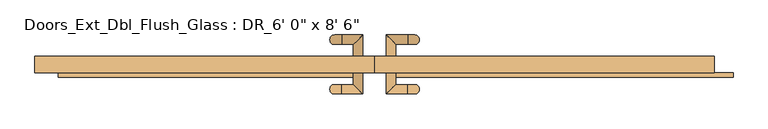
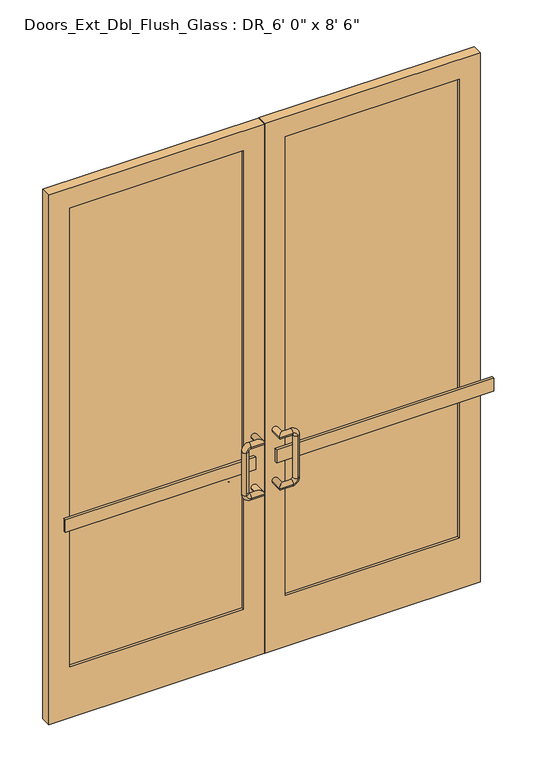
"""IFC4 building model written with IfcOpenShell, lengths in millimetres: door geometry."""

from ifc_helpers import new_model, si_unit, point, frame, origin, place, context, project, spatial, polyline, circle_curve, ellipse_curve, trimmed, outline, extrude, source, transform, mapped, element, save
from ifc_brep_helpers import plane_surface, cylinder_surface, revolved_surface, advanced_brep


def door_58879bf9(model_context):
    return source(origin(), model_context, "Body", "SolidModel", [
        advanced_brep(
        [(-31.75, 57.15, 762.0), (-57.15, 57.15, 762.0), (-31.75, 114.3, 762.0), (-57.15, 88.9, 762.0), (-88.9, 114.3, 762.0), (-88.9, 88.9, 762.0), (-107.95, 88.9, 781.05), (-107.95, 114.3, 781.05), (-107.95, 114.3, 971.55), (-107.95, 88.9, 971.55), (-88.9, 88.9, 990.6), (-88.9, 114.3, 990.6), (-31.75, 114.3, 990.6), (-57.15, 88.9, 990.6), (-31.75, 57.15, 990.6), (-57.15, 57.15, 990.6)],
        [
            (0, 1, circle_curve(frame((-44.45, 57.15, 762.0), z_axis=(0.0, -1.0, 0.0), x_axis=(-1.0, 0.0, 0.0)), 12.7)),
            (1, 0, circle_curve(frame((-44.45, 57.15, 762.0), z_axis=(0.0, -1.0, 0.0), x_axis=(-1.0, 0.0, 0.0)), 12.7)),
            (0, 2),
            (2, 3, ellipse_curve(frame((-44.45, 101.6, 762.0), z_axis=(0.7071067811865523, -0.7071067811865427, 0.0), x_axis=(-0.7071067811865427, -0.7071067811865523, 0.0)), 17.9605122, 12.7)),
            (3, 1),
            (3, 2, ellipse_curve(frame((-44.45, 101.6, 762.0), z_axis=(0.7071067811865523, -0.7071067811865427, 0.0), x_axis=(-0.7071067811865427, -0.7071067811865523, 0.0)), 17.9605122, 12.7)),
            (2, 4),
            (4, 5, circle_curve(frame((-88.9, 101.6, 762.0), z_axis=(1.0, 0.0, 0.0), x_axis=(0.0, -1.0, 0.0)), 12.7)),
            (5, 3),
            (5, 4, circle_curve(frame((-88.9, 101.6, 762.0), z_axis=(1.0, 0.0, 0.0), x_axis=(0.0, -1.0, 0.0)), 12.7)),
            (6, 5, circle_curve(frame((-88.9, 88.9, 781.05), z_axis=(0.0, -1.0, 0.0), x_axis=(0.0, 0.0, -1.0)), 19.05)),
            (4, 7, circle_curve(frame((-88.9, 114.3, 781.05), z_axis=(0.0, 1.0, 0.0), x_axis=(0.0, 0.0, -1.0)), 19.05)),
            (7, 6, circle_curve(frame((-107.95, 101.6, 781.05), z_axis=(0.0, 0.0, -1.0), x_axis=(0.0, -1.0, 0.0)), 12.7)),
            (6, 7, circle_curve(frame((-107.95, 101.6, 781.05), z_axis=(0.0, 0.0, -1.0), x_axis=(0.0, -1.0, 0.0)), 12.7)),
            (7, 8),
            (8, 9, circle_curve(frame((-107.95, 101.6, 971.55), z_axis=(0.0, 0.0, -1.0), x_axis=(0.0, -1.0, 0.0)), 12.7)),
            (9, 6),
            (9, 8, circle_curve(frame((-107.95, 101.6, 971.55), z_axis=(0.0, 0.0, -1.0), x_axis=(0.0, -1.0, 0.0)), 12.7)),
            (10, 9, circle_curve(frame((-88.9, 88.9, 971.55), z_axis=(0.0, -1.0, 0.0), x_axis=(-1.0, 0.0, 0.0)), 19.05)),
            (8, 11, circle_curve(frame((-88.9, 114.3, 971.55), z_axis=(0.0, 1.0, 0.0), x_axis=(-1.0, 0.0, 0.0)), 19.05)),
            (11, 10, circle_curve(frame((-88.9, 101.6, 990.6), z_axis=(-1.0, 0.0, 0.0), x_axis=(0.0, -1.0, 0.0)), 12.7)),
            (10, 11, circle_curve(frame((-88.9, 101.6, 990.6), z_axis=(-1.0, 0.0, 0.0), x_axis=(0.0, -1.0, 0.0)), 12.7)),
            (11, 12),
            (12, 13, ellipse_curve(frame((-44.45, 101.6, 990.6), z_axis=(-0.7071067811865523, 0.7071067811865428, 0.0), x_axis=(-0.7071067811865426, -0.7071067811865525, 0.0)), 17.9605122, 12.7)),
            (13, 10),
            (13, 12, ellipse_curve(frame((-44.45, 101.6, 990.6), z_axis=(-0.7071067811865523, 0.7071067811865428, 0.0), x_axis=(-0.7071067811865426, -0.7071067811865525, 0.0)), 17.9605122, 12.7)),
            (14, 15, circle_curve(frame((-44.45, 57.15, 990.6), z_axis=(0.0, -1.0, 0.0), x_axis=(-1.0, 0.0, 0.0)), 12.7)),
            (15, 14, circle_curve(frame((-44.45, 57.15, 990.6), z_axis=(0.0, -1.0, 0.0), x_axis=(-1.0, 0.0, 0.0)), 12.7)),
            (12, 14),
            (15, 13),
        ],
        [
            plane_surface(frame((-44.45, 57.15, 749.3), z_axis=(0.0, -1.0, 0.0), x_axis=(-1.0, 0.0, 0.0))),
            cylinder_surface(frame((-44.45, 57.15, 762.0), z_axis=(0.0, -1.0, 0.0), x_axis=(-1.0, 0.0, 0.0)), 12.7),
            cylinder_surface(frame((-44.45, 101.6, 762.0), z_axis=(1.0, 0.0, 0.0), x_axis=(0.0, -1.0, 0.0)), 12.7),
            revolved_surface(trimmed(ellipse_curve(frame((-88.9, 101.6, 762.0), z_axis=(1.0, 0.0, 0.0), x_axis=(0.0, -1.0, 0.0)), 12.7, 12.7), [point((-88.9, 114.3, 762.0))], [point((-88.9, 88.9, 762.0))], True, "CARTESIAN"), (-88.9, 101.6, 781.05), (0.0, 1.0, 0.0)),
            revolved_surface(trimmed(ellipse_curve(frame((-88.9, 101.6, 762.0), z_axis=(1.0, 0.0, 0.0), x_axis=(0.0, -1.0, 0.0)), 12.7, 12.7), [point((-88.9, 88.9, 762.0))], [point((-88.9, 114.3, 762.0))], True, "CARTESIAN"), (-88.9, 101.6, 781.05), (0.0, 1.0, 0.0)),
            cylinder_surface(frame((-107.95, 101.6, 781.05), z_axis=(0.0, 0.0, -1.0), x_axis=(0.0, -1.0, 0.0)), 12.7),
            revolved_surface(trimmed(ellipse_curve(frame((-107.95, 101.6, 971.55), z_axis=(0.0, 0.0, -1.0), x_axis=(0.0, -1.0, 0.0)), 12.7, 12.7), [point((-107.95, 114.3, 971.55))], [point((-107.95, 88.9, 971.55))], True, "CARTESIAN"), (-88.9, 101.6, 971.55), (0.0, 1.0, 0.0)),
            revolved_surface(trimmed(ellipse_curve(frame((-107.95, 101.6, 971.55), z_axis=(0.0, 0.0, -1.0), x_axis=(0.0, -1.0, 0.0)), 12.7, 12.7), [point((-107.95, 88.9, 971.55))], [point((-107.95, 114.3, 971.55))], True, "CARTESIAN"), (-88.9, 101.6, 971.55), (0.0, 1.0, 0.0)),
            cylinder_surface(frame((-88.9, 101.6, 990.6), z_axis=(-1.0, 0.0, 0.0), x_axis=(0.0, -1.0, 0.0)), 12.7),
            plane_surface(frame((-44.45, 57.15, 977.9), z_axis=(0.0, -1.0, 0.0), x_axis=(1.0, 0.0, 0.0))),
            cylinder_surface(frame((-44.45, 101.6, 990.6), z_axis=(0.0, 1.0, 0.0), x_axis=(-1.0, 0.0, 0.0)), 12.7),
        ],
        [
            (0, [[1, 2]]),
            (1, [[-1, 3, 4, 5]]),
            (1, [[-2, -5, 6, -3]]),
            (2, [[-4, 7, 8, 9]]),
            (2, [[-6, -9, 10, -7]]),
            (3, [[11, -8, 12, 13]]),
            (4, [[-12, -10, -11, 14]]),
            (5, [[-13, 15, 16, 17]]),
            (5, [[-14, -17, 18, -15]]),
            (6, [[19, -16, 20, 21]]),
            (7, [[-20, -18, -19, 22]]),
            (8, [[-21, 23, 24, 25]]),
            (8, [[-22, -25, 26, -23]]),
            (9, [[27, 28]]),
            (10, [[-24, 29, -28, 30]]),
            (10, [[-26, -30, -27, -29]]),
        ],
    ),
        advanced_brep(
        [(31.75, 57.15, 990.6), (57.15, 57.15, 990.6), (31.75, 114.3, 990.6), (57.15, 88.9, 990.6), (88.9, 114.3, 990.6), (88.9, 88.9, 990.6), (107.95, 88.9, 971.55), (107.95, 114.3, 971.55), (107.95, 114.3, 781.05), (107.95, 88.9, 781.05), (88.9, 88.9, 762.0), (88.9, 114.3, 762.0), (31.75, 114.3, 762.0), (57.15, 88.9, 762.0), (31.75, 57.15, 762.0), (57.15, 57.15, 762.0)],
        [
            (0, 1, circle_curve(frame((44.45, 57.15, 990.6), z_axis=(0.0, -1.0, 0.0), x_axis=(1.0, 0.0, 0.0)), 12.7)),
            (1, 0, circle_curve(frame((44.45, 57.15, 990.6), z_axis=(0.0, -1.0, 0.0), x_axis=(1.0, 0.0, 0.0)), 12.7)),
            (0, 2),
            (2, 3, ellipse_curve(frame((44.45, 101.6, 990.6), z_axis=(-0.7071067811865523, -0.7071067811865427, 0.0), x_axis=(0.7071067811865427, -0.7071067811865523, 0.0)), 17.9605122, 12.7)),
            (3, 1),
            (3, 2, ellipse_curve(frame((44.45, 101.6, 990.6), z_axis=(-0.7071067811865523, -0.7071067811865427, 0.0), x_axis=(0.7071067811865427, -0.7071067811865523, 0.0)), 17.9605122, 12.7)),
            (2, 4),
            (4, 5, circle_curve(frame((88.9, 101.6, 990.6), z_axis=(-1.0, 0.0, 0.0), x_axis=(0.0, -1.0, 0.0)), 12.7)),
            (5, 3),
            (5, 4, circle_curve(frame((88.9, 101.6, 990.6), z_axis=(-1.0, 0.0, 0.0), x_axis=(0.0, -1.0, 0.0)), 12.7)),
            (6, 5, circle_curve(frame((88.9, 88.9, 971.55), z_axis=(0.0, -1.0, 0.0), x_axis=(0.0, 0.0, 1.0)), 19.05)),
            (4, 7, circle_curve(frame((88.9, 114.3, 971.55), z_axis=(0.0, 1.0, 0.0), x_axis=(0.0, 0.0, 1.0)), 19.05)),
            (7, 6, circle_curve(frame((107.95, 101.6, 971.55), z_axis=(0.0, 0.0, 1.0), x_axis=(0.0, -1.0, 0.0)), 12.7)),
            (6, 7, circle_curve(frame((107.95, 101.6, 971.55), z_axis=(0.0, 0.0, 1.0), x_axis=(0.0, -1.0, 0.0)), 12.7)),
            (7, 8),
            (8, 9, circle_curve(frame((107.95, 101.6, 781.05), z_axis=(0.0, 0.0, 1.0), x_axis=(0.0, -1.0, 0.0)), 12.7)),
            (9, 6),
            (9, 8, circle_curve(frame((107.95, 101.6, 781.05), z_axis=(0.0, 0.0, 1.0), x_axis=(0.0, -1.0, 0.0)), 12.7)),
            (10, 9, circle_curve(frame((88.9, 88.9, 781.05), z_axis=(0.0, -1.0, 0.0), x_axis=(1.0, 0.0, 0.0)), 19.05)),
            (8, 11, circle_curve(frame((88.9, 114.3, 781.05), z_axis=(0.0, 1.0, 0.0), x_axis=(1.0, 0.0, 0.0)), 19.05)),
            (11, 10, circle_curve(frame((88.9, 101.6, 762.0), z_axis=(1.0, 0.0, 0.0), x_axis=(0.0, -1.0, 0.0)), 12.7)),
            (10, 11, circle_curve(frame((88.9, 101.6, 762.0), z_axis=(1.0, 0.0, 0.0), x_axis=(0.0, -1.0, 0.0)), 12.7)),
            (11, 12),
            (12, 13, ellipse_curve(frame((44.45, 101.6, 762.0), z_axis=(0.7071067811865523, 0.7071067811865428, 0.0), x_axis=(0.7071067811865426, -0.7071067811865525, 0.0)), 17.9605122, 12.7)),
            (13, 10),
            (13, 12, ellipse_curve(frame((44.45, 101.6, 762.0), z_axis=(0.7071067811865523, 0.7071067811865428, 0.0), x_axis=(0.7071067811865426, -0.7071067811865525, 0.0)), 17.9605122, 12.7)),
            (14, 15, circle_curve(frame((44.45, 57.15, 762.0), z_axis=(0.0, -1.0, 0.0), x_axis=(1.0, 0.0, 0.0)), 12.7)),
            (15, 14, circle_curve(frame((44.45, 57.15, 762.0), z_axis=(0.0, -1.0, 0.0), x_axis=(1.0, 0.0, 0.0)), 12.7)),
            (12, 14),
            (15, 13),
        ],
        [
            plane_surface(frame((44.45, 57.15, 1003.3), z_axis=(0.0, -1.0, 0.0), x_axis=(1.0, 0.0, 0.0))),
            cylinder_surface(frame((44.45, 57.15, 990.6), z_axis=(0.0, -1.0, 0.0), x_axis=(1.0, 0.0, 0.0)), 12.7),
            cylinder_surface(frame((44.45, 101.6, 990.6), z_axis=(-1.0, 0.0, 0.0), x_axis=(0.0, -1.0, 0.0)), 12.7),
            revolved_surface(trimmed(ellipse_curve(frame((88.9, 101.6, 990.6), z_axis=(-1.0, 0.0, 0.0), x_axis=(0.0, -1.0, 0.0)), 12.7, 12.7), [point((88.9, 114.3, 990.6))], [point((88.9, 88.9, 990.6))], True, "CARTESIAN"), (88.9, 101.6, 971.55), (0.0, 1.0, 0.0)),
            revolved_surface(trimmed(ellipse_curve(frame((88.9, 101.6, 990.6), z_axis=(-1.0, 0.0, 0.0), x_axis=(0.0, -1.0, 0.0)), 12.7, 12.7), [point((88.9, 88.9, 990.6))], [point((88.9, 114.3, 990.6))], True, "CARTESIAN"), (88.9, 101.6, 971.55), (0.0, 1.0, 0.0)),
            cylinder_surface(frame((107.95, 101.6, 971.55), z_axis=(0.0, 0.0, 1.0), x_axis=(0.0, -1.0, 0.0)), 12.7),
            revolved_surface(trimmed(ellipse_curve(frame((107.95, 101.6, 781.05), z_axis=(0.0, 0.0, 1.0), x_axis=(0.0, -1.0, 0.0)), 12.7, 12.7), [point((107.95, 114.3, 781.05))], [point((107.95, 88.9, 781.05))], True, "CARTESIAN"), (88.9, 101.6, 781.05), (0.0, 1.0, 0.0)),
            revolved_surface(trimmed(ellipse_curve(frame((107.95, 101.6, 781.05), z_axis=(0.0, 0.0, 1.0), x_axis=(0.0, -1.0, 0.0)), 12.7, 12.7), [point((107.95, 88.9, 781.05))], [point((107.95, 114.3, 781.05))], True, "CARTESIAN"), (88.9, 101.6, 781.05), (0.0, 1.0, 0.0)),
            cylinder_surface(frame((88.9, 101.6, 762.0), z_axis=(1.0, 0.0, 0.0), x_axis=(0.0, -1.0, 0.0)), 12.7),
            plane_surface(frame((44.45, 57.15, 774.7), z_axis=(0.0, -1.0, 0.0), x_axis=(-1.0, 0.0, 0.0))),
            cylinder_surface(frame((44.45, 101.6, 762.0), z_axis=(0.0, 1.0, 0.0), x_axis=(1.0, 0.0, 0.0)), 12.7),
        ],
        [
            (0, [[1, 2]]),
            (1, [[-1, 3, 4, 5]]),
            (1, [[-2, -5, 6, -3]]),
            (2, [[-4, 7, 8, 9]]),
            (2, [[-6, -9, 10, -7]]),
            (3, [[11, -8, 12, 13]]),
            (4, [[-12, -10, -11, 14]]),
            (5, [[-13, 15, 16, 17]]),
            (5, [[-14, -17, 18, -15]]),
            (6, [[19, -16, 20, 21]]),
            (7, [[-20, -18, -19, 22]]),
            (8, [[-21, 23, 24, 25]]),
            (8, [[-22, -25, 26, -23]]),
            (9, [[27, 28]]),
            (10, [[-24, 29, -28, 30]]),
            (10, [[-26, -30, -27, -29]]),
        ],
    ),
        advanced_brep(
        [(-31.75, 12.7, 990.6), (-57.15, 12.7, 990.6), (-31.75, -44.45, 990.6), (-57.15, -19.05, 990.6), (-88.9, -44.45, 990.6), (-88.9, -19.05, 990.6), (-107.95, -19.05, 971.55), (-107.95, -44.45, 971.55), (-107.95, -44.45, 781.05), (-107.95, -19.05, 781.05), (-88.9, -19.05, 762.0), (-88.9, -44.45, 762.0), (-31.75, -44.45, 762.0), (-57.15, -19.05, 762.0), (-31.75, 12.7, 762.0), (-57.15, 12.7, 762.0)],
        [
            (0, 1, circle_curve(frame((-44.45, 12.7, 990.6), z_axis=(0.0, 1.0, 0.0), x_axis=(-1.0, 0.0, 0.0)), 12.7)),
            (1, 0, circle_curve(frame((-44.45, 12.7, 990.6), z_axis=(0.0, 1.0, 0.0), x_axis=(-1.0, 0.0, 0.0)), 12.7)),
            (0, 2),
            (2, 3, ellipse_curve(frame((-44.45, -31.75, 990.6), z_axis=(0.7071067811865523, 0.7071067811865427, 0.0), x_axis=(-0.7071067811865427, 0.7071067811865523, 0.0)), 17.9605122, 12.7)),
            (3, 1),
            (3, 2, ellipse_curve(frame((-44.45, -31.75, 990.6), z_axis=(0.7071067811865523, 0.7071067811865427, 0.0), x_axis=(-0.7071067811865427, 0.7071067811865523, 0.0)), 17.9605122, 12.7)),
            (2, 4),
            (4, 5, circle_curve(frame((-88.9, -31.75, 990.6), z_axis=(1.0, 0.0, 0.0), x_axis=(0.0, 1.0, 0.0)), 12.7)),
            (5, 3),
            (5, 4, circle_curve(frame((-88.9, -31.75, 990.6), z_axis=(1.0, 0.0, 0.0), x_axis=(0.0, 1.0, 0.0)), 12.7)),
            (6, 5, circle_curve(frame((-88.9, -19.05, 971.55), z_axis=(0.0, 1.0, 0.0), x_axis=(0.0, 0.0, 1.0)), 19.05)),
            (4, 7, circle_curve(frame((-88.9, -44.45, 971.55), z_axis=(0.0, -1.0, 0.0), x_axis=(0.0, 0.0, 1.0)), 19.05)),
            (7, 6, circle_curve(frame((-107.95, -31.75, 971.55), z_axis=(0.0, 0.0, 1.0), x_axis=(0.0, 1.0, 0.0)), 12.7)),
            (6, 7, circle_curve(frame((-107.95, -31.75, 971.55), z_axis=(0.0, 0.0, 1.0), x_axis=(0.0, 1.0, 0.0)), 12.7)),
            (7, 8),
            (8, 9, circle_curve(frame((-107.95, -31.75, 781.05), z_axis=(0.0, 0.0, 1.0), x_axis=(0.0, 1.0, 0.0)), 12.7)),
            (9, 6),
            (9, 8, circle_curve(frame((-107.95, -31.75, 781.05), z_axis=(0.0, 0.0, 1.0), x_axis=(0.0, 1.0, 0.0)), 12.7)),
            (10, 9, circle_curve(frame((-88.9, -19.05, 781.05), z_axis=(0.0, 1.0, 0.0), x_axis=(-1.0, 0.0, 0.0)), 19.05)),
            (8, 11, circle_curve(frame((-88.9, -44.45, 781.05), z_axis=(0.0, -1.0, 0.0), x_axis=(-1.0, 0.0, 0.0)), 19.05)),
            (11, 10, circle_curve(frame((-88.9, -31.75, 762.0), z_axis=(-1.0, 0.0, 0.0), x_axis=(0.0, 1.0, 0.0)), 12.7)),
            (10, 11, circle_curve(frame((-88.9, -31.75, 762.0), z_axis=(-1.0, 0.0, 0.0), x_axis=(0.0, 1.0, 0.0)), 12.7)),
            (11, 12),
            (12, 13, ellipse_curve(frame((-44.45, -31.75, 762.0), z_axis=(-0.7071067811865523, -0.7071067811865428, 0.0), x_axis=(-0.7071067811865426, 0.7071067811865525, 0.0)), 17.9605122, 12.7)),
            (13, 10),
            (13, 12, ellipse_curve(frame((-44.45, -31.75, 762.0), z_axis=(-0.7071067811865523, -0.7071067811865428, 0.0), x_axis=(-0.7071067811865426, 0.7071067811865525, 0.0)), 17.9605122, 12.7)),
            (14, 15, circle_curve(frame((-44.45, 12.7, 762.0), z_axis=(0.0, 1.0, 0.0), x_axis=(-1.0, 0.0, 0.0)), 12.7)),
            (15, 14, circle_curve(frame((-44.45, 12.7, 762.0), z_axis=(0.0, 1.0, 0.0), x_axis=(-1.0, 0.0, 0.0)), 12.7)),
            (12, 14),
            (15, 13),
        ],
        [
            plane_surface(frame((-44.45, 12.7, 1003.3), z_axis=(0.0, 1.0, 0.0), x_axis=(-1.0, 0.0, 0.0))),
            cylinder_surface(frame((-44.45, 12.7, 990.6), z_axis=(0.0, 1.0, 0.0), x_axis=(-1.0, 0.0, 0.0)), 12.7),
            cylinder_surface(frame((-44.45, -31.75, 990.6), z_axis=(1.0, 0.0, 0.0), x_axis=(0.0, 1.0, 0.0)), 12.7),
            revolved_surface(trimmed(ellipse_curve(frame((-88.9, -31.75, 990.6), z_axis=(1.0, 0.0, 0.0), x_axis=(0.0, 1.0, 0.0)), 12.7, 12.7), [point((-88.9, -44.45, 990.6))], [point((-88.9, -19.05, 990.6))], True, "CARTESIAN"), (-88.9, -31.75, 971.55), (0.0, -1.0, 0.0)),
            revolved_surface(trimmed(ellipse_curve(frame((-88.9, -31.75, 990.6), z_axis=(1.0, 0.0, 0.0), x_axis=(0.0, 1.0, 0.0)), 12.7, 12.7), [point((-88.9, -19.05, 990.6))], [point((-88.9, -44.45, 990.6))], True, "CARTESIAN"), (-88.9, -31.75, 971.55), (0.0, -1.0, 0.0)),
            cylinder_surface(frame((-107.95, -31.75, 971.55), z_axis=(0.0, 0.0, 1.0), x_axis=(0.0, 1.0, 0.0)), 12.7),
            revolved_surface(trimmed(ellipse_curve(frame((-107.95, -31.75, 781.05), z_axis=(0.0, 0.0, 1.0), x_axis=(0.0, 1.0, 0.0)), 12.7, 12.7), [point((-107.95, -44.45, 781.05))], [point((-107.95, -19.05, 781.05))], True, "CARTESIAN"), (-88.9, -31.75, 781.05), (0.0, -1.0, 0.0)),
            revolved_surface(trimmed(ellipse_curve(frame((-107.95, -31.75, 781.05), z_axis=(0.0, 0.0, 1.0), x_axis=(0.0, 1.0, 0.0)), 12.7, 12.7), [point((-107.95, -19.05, 781.05))], [point((-107.95, -44.45, 781.05))], True, "CARTESIAN"), (-88.9, -31.75, 781.05), (0.0, -1.0, 0.0)),
            cylinder_surface(frame((-88.9, -31.75, 762.0), z_axis=(-1.0, 0.0, 0.0), x_axis=(0.0, 1.0, 0.0)), 12.7),
            plane_surface(frame((-44.45, 12.7, 774.7), z_axis=(0.0, 1.0, 0.0), x_axis=(1.0, 0.0, 0.0))),
            cylinder_surface(frame((-44.45, -31.75, 762.0), z_axis=(0.0, -1.0, 0.0), x_axis=(-1.0, 0.0, 0.0)), 12.7),
        ],
        [
            (0, [[1, 2]]),
            (1, [[-1, 3, 4, 5]]),
            (1, [[-2, -5, 6, -3]]),
            (2, [[-4, 7, 8, 9]]),
            (2, [[-6, -9, 10, -7]]),
            (3, [[11, -8, 12, 13]]),
            (4, [[-12, -10, -11, 14]]),
            (5, [[-13, 15, 16, 17]]),
            (5, [[-14, -17, 18, -15]]),
            (6, [[19, -16, 20, 21]]),
            (7, [[-20, -18, -19, 22]]),
            (8, [[-21, 23, 24, 25]]),
            (8, [[-22, -25, 26, -23]]),
            (9, [[27, 28]]),
            (10, [[-24, 29, -28, 30]]),
            (10, [[-26, -30, -27, -29]]),
        ],
    ),
        advanced_brep(
        [(31.75, 12.7, 762.0), (57.15, 12.7, 762.0), (31.75, -44.45, 762.0), (57.15, -19.05, 762.0), (88.9, -44.45, 762.0), (88.9, -19.05, 762.0), (107.95, -19.05, 781.05), (107.95, -44.45, 781.05), (107.95, -44.45, 971.55), (107.95, -19.05, 971.55), (88.9, -19.05, 990.6), (88.9, -44.45, 990.6), (31.75, -44.45, 990.6), (57.15, -19.05, 990.6), (31.75, 12.7, 990.6), (57.15, 12.7, 990.6)],
        [
            (0, 1, circle_curve(frame((44.45, 12.7, 762.0), z_axis=(0.0, 1.0, 0.0), x_axis=(1.0, 0.0, 0.0)), 12.7)),
            (1, 0, circle_curve(frame((44.45, 12.7, 762.0), z_axis=(0.0, 1.0, 0.0), x_axis=(1.0, 0.0, 0.0)), 12.7)),
            (0, 2),
            (2, 3, ellipse_curve(frame((44.45, -31.75, 762.0), z_axis=(-0.7071067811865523, 0.7071067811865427, 0.0), x_axis=(0.7071067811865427, 0.7071067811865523, 0.0)), 17.9605122, 12.7)),
            (3, 1),
            (3, 2, ellipse_curve(frame((44.45, -31.75, 762.0), z_axis=(-0.7071067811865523, 0.7071067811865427, 0.0), x_axis=(0.7071067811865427, 0.7071067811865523, 0.0)), 17.9605122, 12.7)),
            (2, 4),
            (4, 5, circle_curve(frame((88.9, -31.75, 762.0), z_axis=(-1.0, 0.0, 0.0), x_axis=(0.0, 1.0, 0.0)), 12.7)),
            (5, 3),
            (5, 4, circle_curve(frame((88.9, -31.75, 762.0), z_axis=(-1.0, 0.0, 0.0), x_axis=(0.0, 1.0, 0.0)), 12.7)),
            (6, 5, circle_curve(frame((88.9, -19.05, 781.05), z_axis=(0.0, 1.0, 0.0), x_axis=(0.0, 0.0, -1.0)), 19.05)),
            (4, 7, circle_curve(frame((88.9, -44.45, 781.05), z_axis=(0.0, -1.0, 0.0), x_axis=(0.0, 0.0, -1.0)), 19.05)),
            (7, 6, circle_curve(frame((107.95, -31.75, 781.05), z_axis=(0.0, 0.0, -1.0), x_axis=(0.0, 1.0, 0.0)), 12.7)),
            (6, 7, circle_curve(frame((107.95, -31.75, 781.05), z_axis=(0.0, 0.0, -1.0), x_axis=(0.0, 1.0, 0.0)), 12.7)),
            (7, 8),
            (8, 9, circle_curve(frame((107.95, -31.75, 971.55), z_axis=(0.0, 0.0, -1.0), x_axis=(0.0, 1.0, 0.0)), 12.7)),
            (9, 6),
            (9, 8, circle_curve(frame((107.95, -31.75, 971.55), z_axis=(0.0, 0.0, -1.0), x_axis=(0.0, 1.0, 0.0)), 12.7)),
            (10, 9, circle_curve(frame((88.9, -19.05, 971.55), z_axis=(0.0, 1.0, 0.0), x_axis=(1.0, 0.0, 0.0)), 19.05)),
            (8, 11, circle_curve(frame((88.9, -44.45, 971.55), z_axis=(0.0, -1.0, 0.0), x_axis=(1.0, 0.0, 0.0)), 19.05)),
            (11, 10, circle_curve(frame((88.9, -31.75, 990.6), z_axis=(1.0, 0.0, 0.0), x_axis=(0.0, 1.0, 0.0)), 12.7)),
            (10, 11, circle_curve(frame((88.9, -31.75, 990.6), z_axis=(1.0, 0.0, 0.0), x_axis=(0.0, 1.0, 0.0)), 12.7)),
            (11, 12),
            (12, 13, ellipse_curve(frame((44.45, -31.75, 990.6), z_axis=(0.7071067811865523, -0.7071067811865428, 0.0), x_axis=(0.7071067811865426, 0.7071067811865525, 0.0)), 17.9605122, 12.7)),
            (13, 10),
            (13, 12, ellipse_curve(frame((44.45, -31.75, 990.6), z_axis=(0.7071067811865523, -0.7071067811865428, 0.0), x_axis=(0.7071067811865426, 0.7071067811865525, 0.0)), 17.9605122, 12.7)),
            (14, 15, circle_curve(frame((44.45, 12.7, 990.6), z_axis=(0.0, 1.0, 0.0), x_axis=(1.0, 0.0, 0.0)), 12.7)),
            (15, 14, circle_curve(frame((44.45, 12.7, 990.6), z_axis=(0.0, 1.0, 0.0), x_axis=(1.0, 0.0, 0.0)), 12.7)),
            (12, 14),
            (15, 13),
        ],
        [
            plane_surface(frame((44.45, 12.7, 749.3), z_axis=(0.0, 1.0, 0.0), x_axis=(1.0, 0.0, 0.0))),
            cylinder_surface(frame((44.45, 12.7, 762.0), z_axis=(0.0, 1.0, 0.0), x_axis=(1.0, 0.0, 0.0)), 12.7),
            cylinder_surface(frame((44.45, -31.75, 762.0), z_axis=(-1.0, 0.0, 0.0), x_axis=(0.0, 1.0, 0.0)), 12.7),
            revolved_surface(trimmed(ellipse_curve(frame((88.9, -31.75, 762.0), z_axis=(-1.0, 0.0, 0.0), x_axis=(0.0, 1.0, 0.0)), 12.7, 12.7), [point((88.9, -44.45, 762.0))], [point((88.9, -19.05, 762.0))], True, "CARTESIAN"), (88.9, -31.75, 781.05), (0.0, -1.0, 0.0)),
            revolved_surface(trimmed(ellipse_curve(frame((88.9, -31.75, 762.0), z_axis=(-1.0, 0.0, 0.0), x_axis=(0.0, 1.0, 0.0)), 12.7, 12.7), [point((88.9, -19.05, 762.0))], [point((88.9, -44.45, 762.0))], True, "CARTESIAN"), (88.9, -31.75, 781.05), (0.0, -1.0, 0.0)),
            cylinder_surface(frame((107.95, -31.75, 781.05), z_axis=(0.0, 0.0, -1.0), x_axis=(0.0, 1.0, 0.0)), 12.7),
            revolved_surface(trimmed(ellipse_curve(frame((107.95, -31.75, 971.55), z_axis=(0.0, 0.0, -1.0), x_axis=(0.0, 1.0, 0.0)), 12.7, 12.7), [point((107.95, -44.45, 971.55))], [point((107.95, -19.05, 971.55))], True, "CARTESIAN"), (88.9, -31.75, 971.55), (0.0, -1.0, 0.0)),
            revolved_surface(trimmed(ellipse_curve(frame((107.95, -31.75, 971.55), z_axis=(0.0, 0.0, -1.0), x_axis=(0.0, 1.0, 0.0)), 12.7, 12.7), [point((107.95, -19.05, 971.55))], [point((107.95, -44.45, 971.55))], True, "CARTESIAN"), (88.9, -31.75, 971.55), (0.0, -1.0, 0.0)),
            cylinder_surface(frame((88.9, -31.75, 990.6), z_axis=(1.0, 0.0, 0.0), x_axis=(0.0, 1.0, 0.0)), 12.7),
            plane_surface(frame((44.45, 12.7, 977.9), z_axis=(0.0, 1.0, 0.0), x_axis=(-1.0, 0.0, 0.0))),
            cylinder_surface(frame((44.45, -31.75, 990.6), z_axis=(0.0, -1.0, 0.0), x_axis=(1.0, 0.0, 0.0)), 12.7),
        ],
        [
            (0, [[1, 2]]),
            (1, [[-1, 3, 4, 5]]),
            (1, [[-2, -5, 6, -3]]),
            (2, [[-4, 7, 8, 9]]),
            (2, [[-6, -9, 10, -7]]),
            (3, [[11, -8, 12, 13]]),
            (4, [[-12, -10, -11, 14]]),
            (5, [[-13, 15, 16, 17]]),
            (5, [[-14, -17, 18, -15]]),
            (6, [[19, -16, 20, 21]]),
            (7, [[-20, -18, -19, 22]]),
            (8, [[-21, 23, 24, 25]]),
            (8, [[-22, -25, 26, -23]]),
            (9, [[27, 28]]),
            (10, [[-24, 29, -28, 30]]),
            (10, [[-26, -30, -27, -29]]),
        ],
    ),
        extrude(outline(polyline([(825.6471267, 25.4), (88.9, 25.4), (88.9, 44.45), (825.6471267, 44.45), (825.6471267, 25.4)])), frame((0.0, 0.0, 228.6), z_axis=(0.0, 0.0, 1.0), x_axis=(1.0, 0.0, 0.0)), (0.0, 0.0, 1.0), 2057.4),
        extrude(outline(polyline([(-88.9, 25.4), (-825.6471267, 25.4), (-825.6471267, 44.45), (-88.9, 44.45), (-88.9, 25.4)])), frame((0.0, 0.0, 228.6), z_axis=(0.0, 0.0, 1.0), x_axis=(1.0, 0.0, 0.0)), (0.0, 0.0, 1.0), 2057.4),
        extrude(outline(polyline([(2374.9, 0.79375), (0.0, 0.79375), (0.0, 914.5471267), (2374.9, 914.5471267), (2374.9, 0.79375)]), holes=[polyline([(2286.0, 88.9), (2286.0, 825.6471267), (228.6, 825.6471267), (228.6, 88.9), (2286.0, 88.9)])]), frame((0.0, 12.7, 0.0), z_axis=(0.0, 1.0, 0.0), x_axis=(0.0, 0.0, 1.0)), (0.0, 0.0, 1.0), 44.45),
        extrude(outline(polyline([(2374.9, -0.79375), (2374.9, -914.5471267), (0.0, -914.5471267), (0.0, -0.79375), (2374.9, -0.79375)]), holes=[polyline([(2286.0, -825.6471267), (2286.0, -88.9), (228.6, -88.9), (228.6, -825.6471267), (2286.0, -825.6471267)])]), frame((0.0, 12.7, 0.0), z_axis=(0.0, 1.0, 0.0), x_axis=(0.0, 0.0, 1.0)), (0.0, 0.0, 1.0), 44.45),
        extrude(outline(polyline([(-44.45, 0.0), (-851.0471267, 0.0), (-851.0471267, 12.7), (-44.45, 12.7), (-44.45, 0.0)])), frame((0.0, 0.0, 847.725), z_axis=(0.0, 0.0, 1.0), x_axis=(1.0, 0.0, 0.0)), (0.0, 0.0, 1.0), 57.15),
        extrude(outline(polyline([(965.1731001, 0.0), (44.45, 0.0), (44.45, 12.7), (965.1731001, 12.7), (965.1731001, 0.0)])), frame((0.0, 0.0, 847.725), z_axis=(0.0, 0.0, 1.0), x_axis=(1.0, 0.0, 0.0)), (0.0, 0.0, 1.0), 57.15),
    ])


if __name__ == "__main__":
    model = new_model("IFC4")
    model_context = context("Model", 3, world=origin())
    ifc_project = project(units=[si_unit("LENGTHUNIT", "METRE", prefix="MILLI")], contexts=[model_context])
    site = spatial("IfcSite", under=ifc_project)
    building = spatial("IfcBuilding", under=site)
    placement = place(None, origin())
    door_shape = door_58879bf9(model_context)
    element("IfcDoor", 1, ObjectType="Doors_Ext_Dbl_Flush_Glass : DR_6' 0\" x 8' 6\"", at=placement, inside=building, context=model_context, shape_type="MappedRepresentation", body=[
        mapped(door_shape, transform((0.0, 0.0, 0.0), x_axis=(1.0, 0.0, 0.0), y_axis=(0.0, 1.0, 0.0), z_axis=(0.0, 0.0, 1.0))),
    ])
    save(model, "model.ifc")
